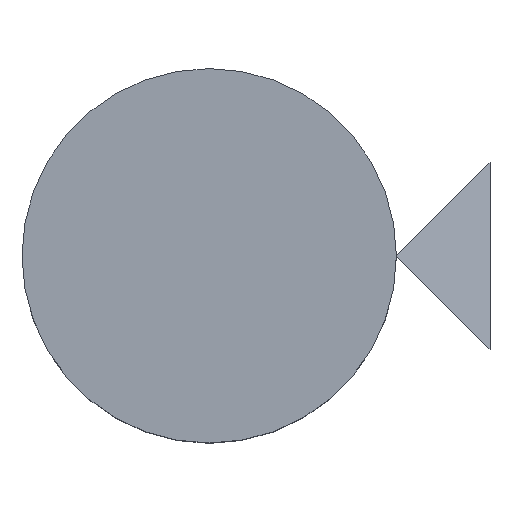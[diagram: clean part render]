
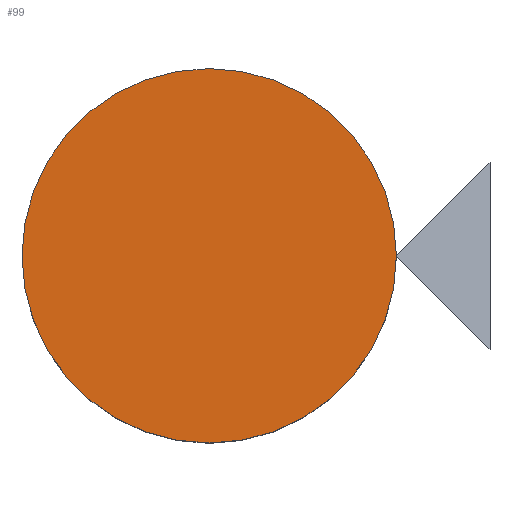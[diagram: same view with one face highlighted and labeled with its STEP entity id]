
A CAD part, top view. The second image highlights one B-rep face of the part: STEP entity #99.
In plain terms, the highlighted planar face has unit normal (0, 0, 1).
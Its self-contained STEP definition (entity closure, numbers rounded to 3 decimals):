
#2=CARTESIAN_POINT('',(0.,0.,2.));
#4=CARTESIAN_POINT('',(2.,0.,2.));
#12=VERTEX_POINT('',#4);
#20=DIRECTION('',(0.,0.,1.));
#22=DIRECTION('',(1.,0.,0.));
#25=AXIS2_PLACEMENT_3D('',#2,#20,#22);
#31=CIRCLE('',#25,2.);
#41=EDGE_CURVE('',#12,#12,#31,.T.);
#95=ORIENTED_EDGE('',*,*,#41,.T.);
#96=EDGE_LOOP('',(#95));
#97=FACE_OUTER_BOUND('',#96,.T.);
#98=PLANE('',#25);
#99=ADVANCED_FACE('',(#97),#98,.T.);
